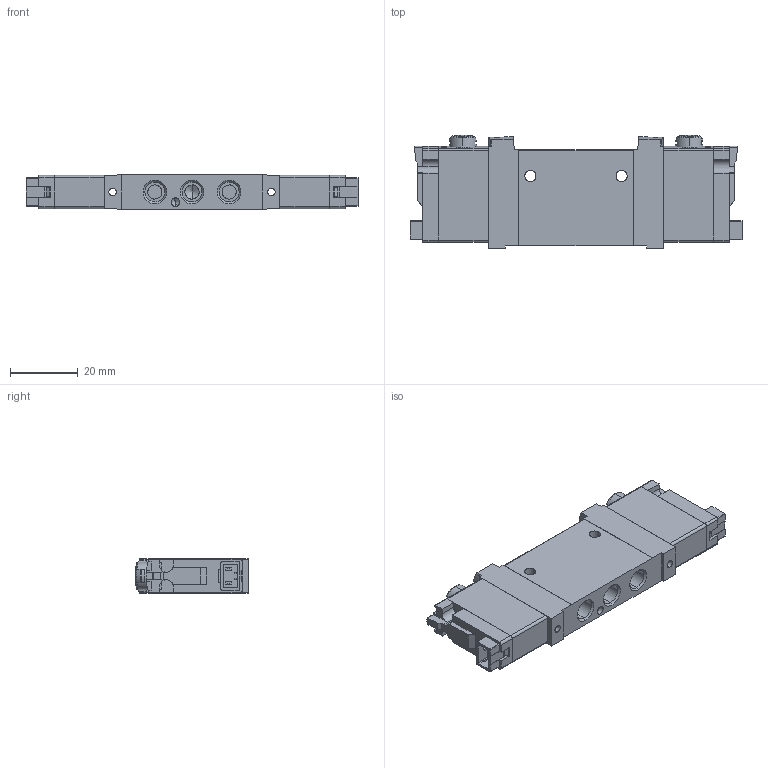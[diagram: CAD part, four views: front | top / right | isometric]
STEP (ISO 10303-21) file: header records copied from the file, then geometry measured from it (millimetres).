
FILE_DESCRIPTION (( 'STEP AP214' ), '1' );
FILE_NAME ('Solenoid Valve-8042548 VUVG-LK10-B52-T-M7-1H2L-S.step', '2025-12-23T16:04:57', ( '' ), ( '' ), 'SwSTEP 2.0', 'SolidWorks 2026', '' );
FILE_SCHEMA (( 'AUTOMOTIVE_DESIGN' ));
Length unit declared in the file: inch
Products named in the file (3): Solenoid Valve-8042548 VUVG-LK10-B52-T-M7-1H2L-S; 3779382 VUVG-LK-IP40; 564212 VUVG-LK10-B52---T-M7--1H2--L-----(G)
Assembly tree (3 placements, depth 2):
  Solenoid Valve-8042548 VUVG-LK10-B52-T-M7-1H2L-S
    564212 VUVG-LK10-B52---T-M7--1H2--L-----(G)
    3779382 VUVG-LK-IP40  x2
Bounding box: 98.3 x 33.47 x 10.25 mm (x, y, z)
Volume: 23899.5 mm3; surface area: 12118.9 mm2
Topology: 3 solids, 3 shells, 619 faces, 1702 edges, 1118 vertices
Faces by surface type: plane 429, cylinder 150, cone 26, torus 10, sphere 4
Entity records: 17163 total; most frequent: CARTESIAN_POINT 4736, ORIENTED_EDGE 2656, DIRECTION 2397, EDGE_CURVE 1328, LINE 929, VECTOR 929, VERTEX_POINT 873, AXIS2_PLACEMENT_3D 734
